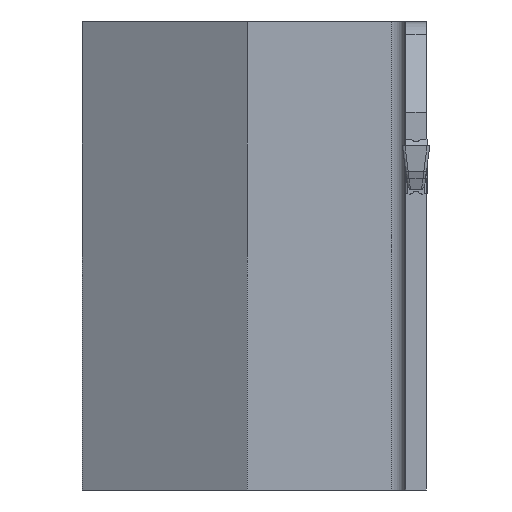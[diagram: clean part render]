
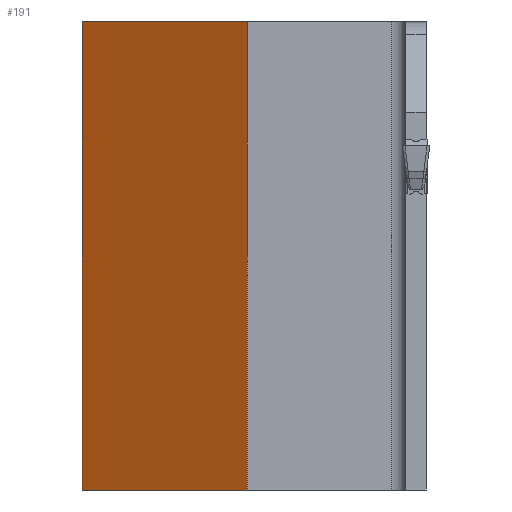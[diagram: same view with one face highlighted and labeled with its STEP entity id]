
A CAD part, left-side view. The second image highlights one B-rep face of the part: STEP entity #191.
In plain terms, the highlighted planar face has unit normal (-0.866, 0.5, 0).
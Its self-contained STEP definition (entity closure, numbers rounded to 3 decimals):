
#191=ADVANCED_FACE('',(#324),#270,.T.);
#270=PLANE('',#1536);
#324=FACE_OUTER_BOUND('',#403,.T.);
#403=EDGE_LOOP('',(#525,#526,#527,#528));
#525=ORIENTED_EDGE('',*,*,#1050,.F.);
#526=ORIENTED_EDGE('',*,*,#1053,.F.);
#527=ORIENTED_EDGE('',*,*,#1046,.T.);
#528=ORIENTED_EDGE('',*,*,#1058,.T.);
#905=VERTEX_POINT('',#2092);
#907=VERTEX_POINT('',#2097);
#909=VERTEX_POINT('',#2104);
#910=VERTEX_POINT('',#2106);
#1046=EDGE_CURVE('',#905,#907,#1247,.T.);
#1050=EDGE_CURVE('',#909,#910,#1251,.T.);
#1053=EDGE_CURVE('',#905,#909,#1253,.T.);
#1058=EDGE_CURVE('',#907,#910,#1257,.T.);
#1247=LINE('',#2098,#1396);
#1251=LINE('',#2105,#1400);
#1253=LINE('',#2111,#1402);
#1257=LINE('',#2120,#1406);
#1396=VECTOR('',#1687,1.);
#1400=VECTOR('',#1693,1.);
#1402=VECTOR('',#1699,1.);
#1406=VECTOR('',#1707,1.);
#1536=AXIS2_PLACEMENT_3D('',#2121,#1708,#1709);
#1687=DIRECTION('',(-0.5,-0.866,0.));
#1693=DIRECTION('',(-0.5,-0.866,0.));
#1699=DIRECTION('',(0.,0.,1.));
#1707=DIRECTION('',(0.,0.,1.));
#1708=DIRECTION('',(-0.866,0.5,0.));
#1709=DIRECTION('',(-0.5,-0.866,0.));
#2092=CARTESIAN_POINT('',(22.428,24.25,-25.));
#2097=CARTESIAN_POINT('',(15.5,12.25,-25.));
#2098=CARTESIAN_POINT('',(22.428,24.25,-25.));
#2104=CARTESIAN_POINT('',(22.428,24.25,9.));
#2105=CARTESIAN_POINT('',(22.428,24.25,9.));
#2106=CARTESIAN_POINT('',(15.5,12.25,9.));
#2111=CARTESIAN_POINT('',(22.428,24.25,-25.));
#2120=CARTESIAN_POINT('',(15.5,12.25,-25.));
#2121=CARTESIAN_POINT('',(22.428,24.25,-25.));
